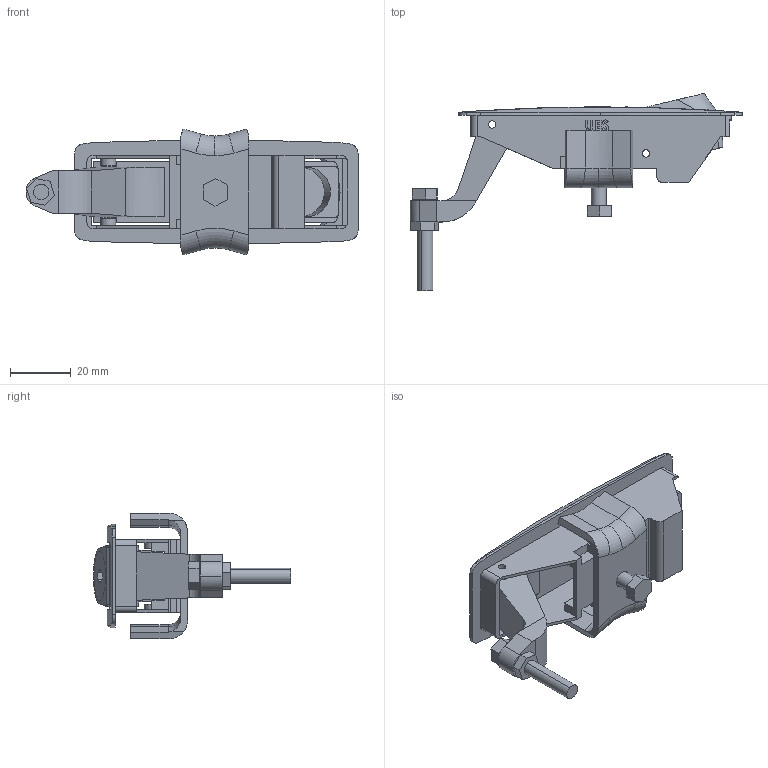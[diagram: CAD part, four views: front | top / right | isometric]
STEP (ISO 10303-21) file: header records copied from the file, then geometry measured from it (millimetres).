
FILE_DESCRIPTION (( 'STEP AP203' ), '1' );
FILE_NAME ('C2L1BP.STEP', '2017-12-08T05:06:02', ( '' ), ( '' ), 'SwSTEP 2.0', 'SolidWorks 2017', '' );
FILE_SCHEMA (( 'CONFIG_CONTROL_DESIGN' ));
Length unit declared in the file: millimetre
Products named in the file (8): C2L1_bracket; C2L1_housing; C2L1_screw; C2L1_locksub1; C2L1_raised_trigger; C2L1BP; C2L1_lever1; C2L1_nut
Assembly tree (8 placements, depth 2):
  C2L1BP
    C2L1_screw  x2
    C2L1_bracket
    C2L1_nut
    C2L1_lever1
    C2L1_raised_trigger
    C2L1_housing
    C2L1_locksub1
Bounding box: 109 x 64.7 x 41.36 mm (x, y, z)
Volume: 29064.5 mm3; surface area: 26205.6 mm2
Topology: 8 solids, 8 shells, 348 faces, 966 edges, 640 vertices
Faces by surface type: plane 189, cylinder 110, bspline 33, torus 10, cone 4, sphere 2
Entity records: 14525 total; most frequent: CARTESIAN_POINT 5256, ORIENTED_EDGE 1884, DIRECTION 1553, EDGE_CURVE 942, VERTEX_POINT 624, VECTOR 575, LINE 575, AXIS2_PLACEMENT_3D 489
